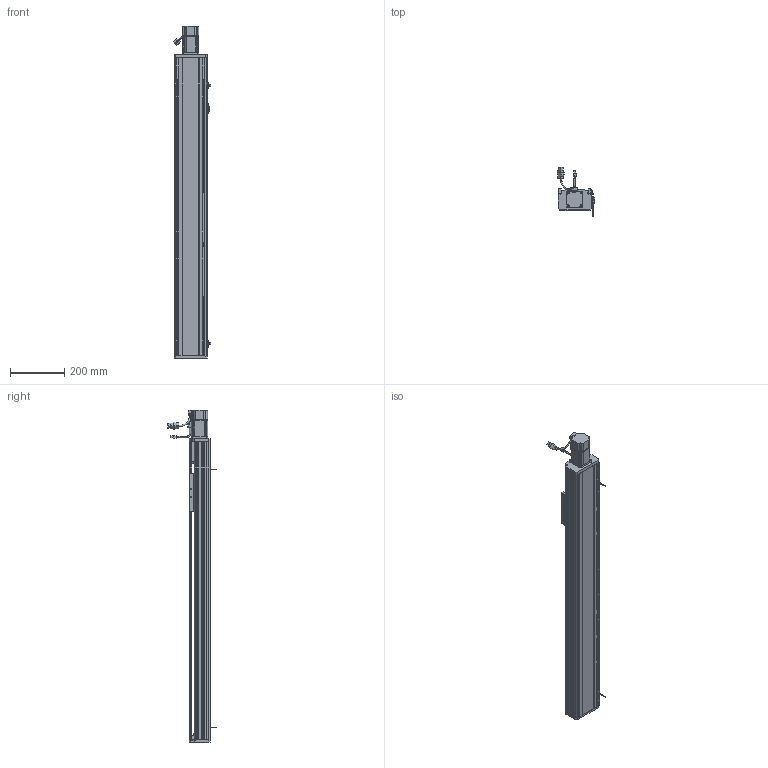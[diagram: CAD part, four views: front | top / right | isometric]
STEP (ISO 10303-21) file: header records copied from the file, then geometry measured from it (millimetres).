
FILE_DESCRIPTION (( 'STEP AP214' ), '1' );
FILE_NAME ('CTH120-850.STEP', '2019-11-20T02:44:05', ( '微软用户' ), ( '微软中国' ), 'SwSTEP 2.0', 'SolidWorks 2017', '' );
FILE_SCHEMA (( 'AUTOMOTIVE_DESIGN' ));
Length unit declared in the file: millimetre
Products named in the file (33): 120耀郪-傷啣; M5-L20囀鞠褒蹟佪; 120模组-盖子_默认<按加工>; M5-L12囀鞠褒蹟佪; 120耀郪-侜督儂啣; 怢湛200W侜督萇儂ECMA-CX0602ES; SFH1605; 盓傅釱蚾饜极; 136蹟簽蟀諉輸; 6000; 120模组-移动座_默认<按加工>; 120耀郪-盓傅釱; SFH1605-450; M4-L16囀鞠褒蹟佪; 120模组-底座_默认<按加工>; EGH15-CA; EGH15_RAIL; CTH120-850; 珨极宒粣創釱; 遣喳蝶15x12x8; M4-L10囀鞠褒蹟佪; M4-L22囀鞠褒蹟佪; 7001-DB; 7001; 噩砃EGH15-CA; 粣創揤啣; M3-L8囀鞠褒蹟佪; COL12B-粣遠; CT12耀郪-覜茼んえ; 坶踡蹟譫; EE-SX672-BR; 120耀郪-粣創釱; M4-L6半圆头内六角螺丝
Assembly tree (90 placements, depth 4):
  CTH120-850
    120模组-底座_默认<按加工>
    SFH1605-450
    120模组-移动座_默认<按加工>
    136蹟簽蟀諉輸
    SFH1605
    120耀郪-侜督儂啣
    120模组-盖子_默认<按加工>
    120耀郪-傷啣
    珨极宒粣創釱
      120耀郪-粣創釱
      坶踡蹟譫
      COL12B-粣遠  x2
      粣創揤啣
      7001-DB
        7001  x2
      M4-L22囀鞠褒蹟佪  x6
      M4-L10囀鞠褒蹟佪  x4
      遣喳蝶15x12x8
    EGH15_RAIL  x2
    EGH15-CA  x2
    M4-L16囀鞠褒蹟佪  x8
    M4-L10囀鞠褒蹟佪  x22
    盓傅釱蚾饜极
      120耀郪-盓傅釱
      6000
      遣喳蝶15x12x8  x2
      M4-L22囀鞠褒蹟佪  x2
    怢湛200W侜督萇儂ECMA-CX0602ES
    M5-L12囀鞠褒蹟佪  x3
    M5-L20囀鞠褒蹟佪  x4
    M4-L6半圆头内六角螺丝  x4
    EE-SX672-BR  x2
    CT12耀郪-覜茼んえ
    M3-L8囀鞠褒蹟佪  x4
    噩砃EGH15-CA  x2
Bounding box: 137.94 x 179.67 x 1222 mm (x, y, z)
Volume: 4603952.5 mm3; surface area: 1416457.9 mm2
Topology: 87 solids, 96 shells, 5388 faces, 14263 edges, 9133 vertices
Faces by surface type: plane 2895, cylinder 1610, cone 549, bspline 241, torus 81, sphere 12
Entity records: 115840 total; most frequent: CARTESIAN_POINT 34192, ORIENTED_EDGE 17240, DIRECTION 15541, EDGE_CURVE 8620, VERTEX_POINT 5659, AXIS2_PLACEMENT_3D 5313, VECTOR 4915, LINE 4915
